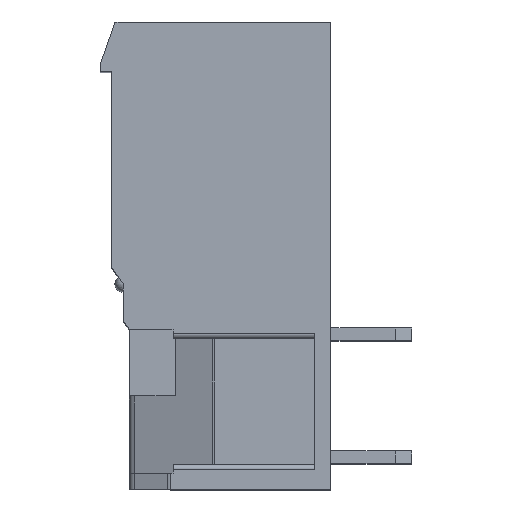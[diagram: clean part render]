
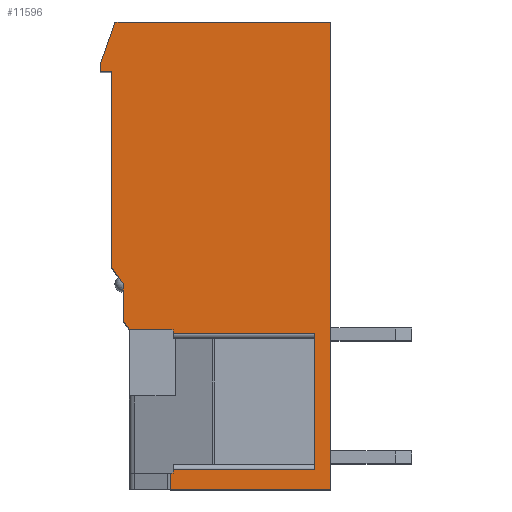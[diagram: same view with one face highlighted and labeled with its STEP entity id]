
A CAD part, top view. The second image highlights one B-rep face of the part: STEP entity #11596.
In plain terms, the highlighted planar face has unit normal (0, 0, 1).
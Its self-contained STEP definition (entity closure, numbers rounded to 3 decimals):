
#3642=DIRECTION('',(-1.,0.,0.));
#3643=VECTOR('',#3642,2.701);
#3644=CARTESIAN_POINT('',(4.5,9.9,0.));
#3645=LINE('',#3644,#3643);
#3646=DIRECTION('',(-0.574,0.819,0.));
#3647=VECTOR('',#3646,0.696);
#3648=CARTESIAN_POINT('',(1.799,9.9,0.));
#3649=LINE('',#3648,#3647);
#3650=DIRECTION('',(0.,1.,0.));
#3651=VECTOR('',#3650,2.28);
#3652=CARTESIAN_POINT('',(1.4,10.47,0.));
#3653=LINE('',#3652,#3651);
#3654=DIRECTION('',(-0.574,0.819,0.));
#3655=VECTOR('',#3654,1.22);
#3656=CARTESIAN_POINT('',(1.4,12.75,0.));
#3657=LINE('',#3656,#3655);
#3658=DIRECTION('',(0.,1.,0.));
#3659=VECTOR('',#3658,12.15);
#3660=CARTESIAN_POINT('',(0.7,13.75,0.));
#3661=LINE('',#3660,#3659);
#3662=DIRECTION('',(-1.,0.,0.));
#3663=VECTOR('',#3662,0.7);
#3664=CARTESIAN_POINT('',(0.7,25.9,0.));
#3665=LINE('',#3664,#3663);
#3666=DIRECTION('',(0.,1.,0.));
#3667=VECTOR('',#3666,0.5);
#3668=CARTESIAN_POINT('',(0.,25.9,0.));
#3669=LINE('',#3668,#3667);
#3670=DIRECTION('',(0.327,0.945,0.));
#3671=VECTOR('',#3670,2.751);
#3672=CARTESIAN_POINT('',(0.,26.4,0.));
#3673=LINE('',#3672,#3671);
#3674=DIRECTION('',(1.,0.,0.));
#3675=VECTOR('',#3674,13.4);
#3676=CARTESIAN_POINT('',(0.9,29.,0.));
#3677=LINE('',#3676,#3675);
#3678=DIRECTION('',(0.,-1.,0.));
#3679=VECTOR('',#3678,29.);
#3680=CARTESIAN_POINT('',(14.3,29.,0.));
#3681=LINE('',#3680,#3679);
#3682=DIRECTION('',(-1.,0.,0.));
#3683=VECTOR('',#3682,9.933);
#3684=CARTESIAN_POINT('',(14.3,0.,0.));
#3685=LINE('',#3684,#3683);
#3690=DIRECTION('',(0.,-1.,0.));
#3691=VECTOR('',#3690,1.);
#3692=CARTESIAN_POINT('',(4.367,1.,0.));
#3693=LINE('',#3692,#3691);
#3742=DIRECTION('',(-1.,0.,0.));
#3743=VECTOR('',#3742,0.133);
#3744=CARTESIAN_POINT('',(4.5,1.,0.));
#3745=LINE('',#3744,#3743);
#3788=DIRECTION('',(0.,-1.,0.));
#3789=VECTOR('',#3788,0.248);
#3790=CARTESIAN_POINT('',(4.5,9.9,0.));
#3791=LINE('',#3790,#3789);
#3805=DIRECTION('',(1.,0.,0.));
#3806=VECTOR('',#3805,8.8);
#3807=CARTESIAN_POINT('',(4.5,9.652,0.));
#3808=LINE('',#3807,#3806);
#3831=DIRECTION('',(0.,-1.,0.));
#3832=VECTOR('',#3831,8.404);
#3833=CARTESIAN_POINT('',(13.3,9.652,0.));
#3834=LINE('',#3833,#3832);
#3835=DIRECTION('',(-1.,0.,0.));
#3836=VECTOR('',#3835,8.8);
#3837=CARTESIAN_POINT('',(13.3,1.248,0.));
#3838=LINE('',#3837,#3836);
#3852=DIRECTION('',(0.,-1.,0.));
#3853=VECTOR('',#3852,0.248);
#3854=CARTESIAN_POINT('',(4.5,1.248,0.));
#3855=LINE('',#3854,#3853);
#4913=CARTESIAN_POINT('',(4.367,1.,0.));
#4914=CARTESIAN_POINT('',(4.367,0.,0.));
#4915=VERTEX_POINT('',#4913);
#4916=VERTEX_POINT('',#4914);
#4917=CARTESIAN_POINT('',(4.5,1.,0.));
#4918=VERTEX_POINT('',#4917);
#4919=CARTESIAN_POINT('',(4.5,1.248,0.));
#4920=VERTEX_POINT('',#4919);
#4921=CARTESIAN_POINT('',(13.3,1.248,0.));
#4922=VERTEX_POINT('',#4921);
#4923=CARTESIAN_POINT('',(13.3,9.652,0.));
#4924=VERTEX_POINT('',#4923);
#4925=CARTESIAN_POINT('',(4.5,9.652,0.));
#4926=VERTEX_POINT('',#4925);
#4927=CARTESIAN_POINT('',(4.5,9.9,0.));
#4928=VERTEX_POINT('',#4927);
#4929=CARTESIAN_POINT('',(1.799,9.9,0.));
#4930=VERTEX_POINT('',#4929);
#4931=CARTESIAN_POINT('',(1.4,10.47,0.));
#4932=VERTEX_POINT('',#4931);
#4933=CARTESIAN_POINT('',(1.4,12.75,0.));
#4934=VERTEX_POINT('',#4933);
#4935=CARTESIAN_POINT('',(0.7,13.75,0.));
#4936=VERTEX_POINT('',#4935);
#4937=CARTESIAN_POINT('',(0.7,25.9,0.));
#4938=VERTEX_POINT('',#4937);
#4939=CARTESIAN_POINT('',(0.,25.9,0.));
#4940=VERTEX_POINT('',#4939);
#4941=CARTESIAN_POINT('',(0.,26.4,0.));
#4942=VERTEX_POINT('',#4941);
#4943=CARTESIAN_POINT('',(0.9,29.,0.));
#4944=VERTEX_POINT('',#4943);
#4945=CARTESIAN_POINT('',(14.3,29.,0.));
#4946=VERTEX_POINT('',#4945);
#4947=CARTESIAN_POINT('',(14.3,0.,0.));
#4948=VERTEX_POINT('',#4947);
#11563=CARTESIAN_POINT('',(7.6,14.5,0.));
#11564=DIRECTION('',(0.,0.,1.));
#11565=DIRECTION('',(1.,0.,0.));
#11566=AXIS2_PLACEMENT_3D('',#11563,#11564,#11565);
#11567=PLANE('',#11566);
#11569=ORIENTED_EDGE('',*,*,#11568,.F.);
#11571=ORIENTED_EDGE('',*,*,#11570,.F.);
#11573=ORIENTED_EDGE('',*,*,#11572,.F.);
#11575=ORIENTED_EDGE('',*,*,#11574,.F.);
#11577=ORIENTED_EDGE('',*,*,#11576,.F.);
#11579=ORIENTED_EDGE('',*,*,#11578,.F.);
#11581=ORIENTED_EDGE('',*,*,#11580,.F.);
#11583=ORIENTED_EDGE('',*,*,#11582,.T.);
#11584=ORIENTED_EDGE('',*,*,#11191,.T.);
#11585=ORIENTED_EDGE('',*,*,#11225,.T.);
#11586=ORIENTED_EDGE('',*,*,#11244,.T.);
#11587=ORIENTED_EDGE('',*,*,#11280,.T.);
#11588=ORIENTED_EDGE('',*,*,#11294,.T.);
#11589=ORIENTED_EDGE('',*,*,#11308,.T.);
#11590=ORIENTED_EDGE('',*,*,#11322,.T.);
#11591=ORIENTED_EDGE('',*,*,#11355,.T.);
#11592=ORIENTED_EDGE('',*,*,#7595,.T.);
#11593=ORIENTED_EDGE('',*,*,#8719,.T.);
#11594=EDGE_LOOP('',(#11569,#11571,#11573,#11575,#11577,#11579,#11581,#11583,
#11584,#11585,#11586,#11587,#11588,#11589,#11590,#11591,#11592,#11593));
#11595=FACE_OUTER_BOUND('',#11594,.F.);
#11596=ADVANCED_FACE('',(#11595),#11567,.T.);
#7595=EDGE_CURVE('',#4946,#4948,#3681,.T.);
#8719=EDGE_CURVE('',#4948,#4916,#3685,.T.);
#11191=EDGE_CURVE('',#4930,#4932,#3649,.T.);
#11225=EDGE_CURVE('',#4932,#4934,#3653,.T.);
#11244=EDGE_CURVE('',#4934,#4936,#3657,.T.);
#11280=EDGE_CURVE('',#4936,#4938,#3661,.T.);
#11294=EDGE_CURVE('',#4938,#4940,#3665,.T.);
#11308=EDGE_CURVE('',#4940,#4942,#3669,.T.);
#11322=EDGE_CURVE('',#4942,#4944,#3673,.T.);
#11355=EDGE_CURVE('',#4944,#4946,#3677,.T.);
#11568=EDGE_CURVE('',#4915,#4916,#3693,.T.);
#11570=EDGE_CURVE('',#4918,#4915,#3745,.T.);
#11572=EDGE_CURVE('',#4920,#4918,#3855,.T.);
#11574=EDGE_CURVE('',#4922,#4920,#3838,.T.);
#11576=EDGE_CURVE('',#4924,#4922,#3834,.T.);
#11578=EDGE_CURVE('',#4926,#4924,#3808,.T.);
#11580=EDGE_CURVE('',#4928,#4926,#3791,.T.);
#11582=EDGE_CURVE('',#4928,#4930,#3645,.T.);
